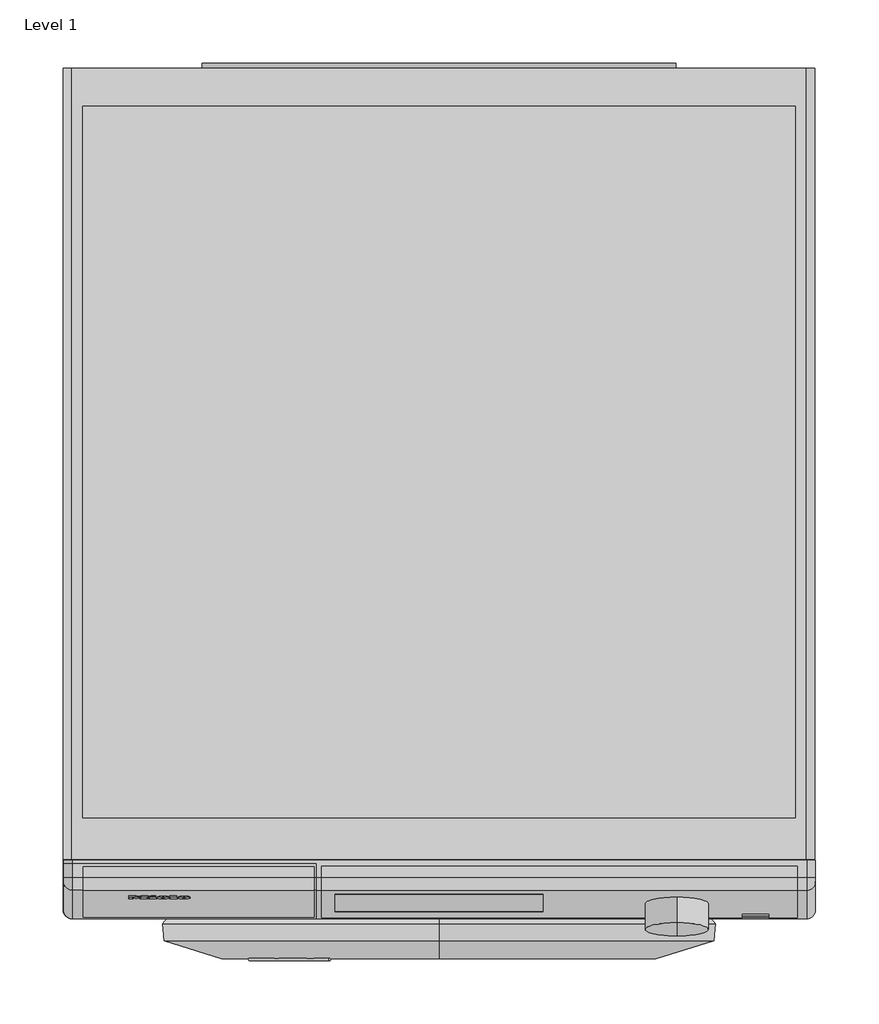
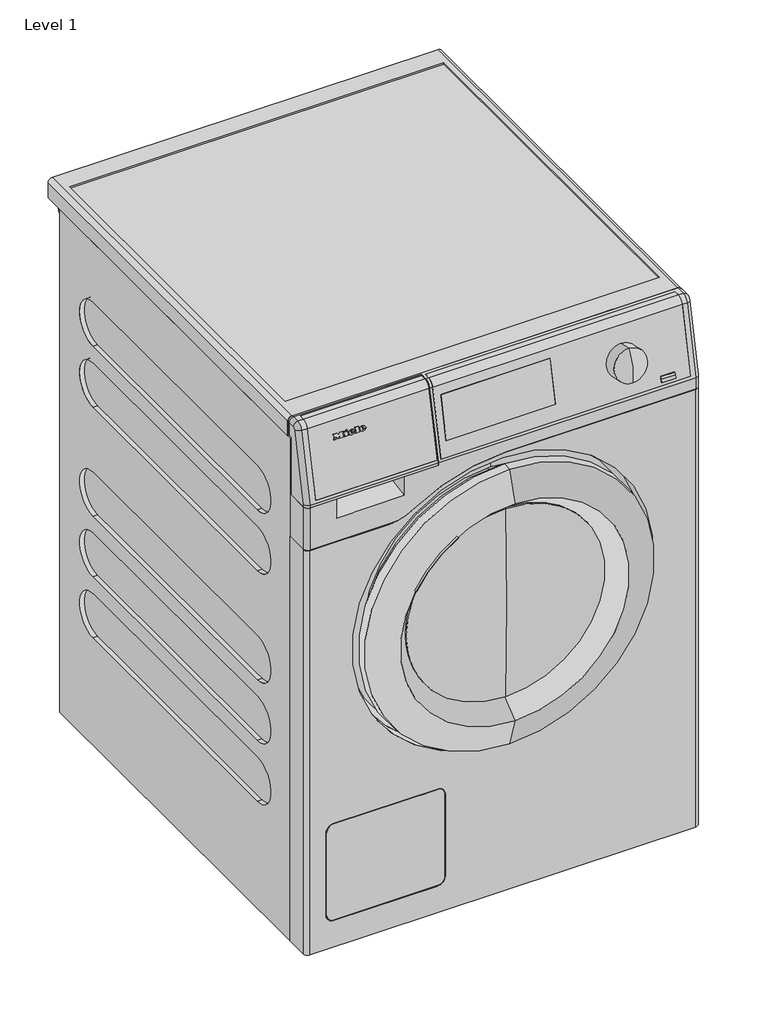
# One storey: 1 proxy.
"""IFC4 building model written with IfcOpenShell, lengths in millimetres."""

from ifc_helpers import new_model, si_unit, origin, place, context, project, spatial, transform, mapped, element, save
from components import specialty_equipment_d562a600, specialty_equipment_ffc2add7, specialty_equipment_23190b8d

model = new_model("IFC4")

# Units and contexts
model_context = context("Model", 3, world=origin())
ifc_project = project(units=[si_unit("LENGTHUNIT", "METRE", prefix="MILLI")], contexts=[model_context])

# Site, building, storey
site = spatial("IfcSite", under=ifc_project)
building = spatial("IfcBuilding", under=site)
storey = spatial("IfcBuildingStorey", under=building, Name="Level 1", Elevation=0.0)

# Proxy
placement = place(None, origin())
specialty_equipment_shape = specialty_equipment_d562a600(model_context)
specialty_equipment_2_shape = specialty_equipment_ffc2add7(model_context)
specialty_equipment_3_shape = specialty_equipment_23190b8d(model_context)
element("IfcBuildingElementProxy", 1, Name="11470760_ZER_PWM307DP_LWCC : 51307172_ZER_11470760_PWM307DP_LWCC", ObjectType="11470760_ZER_PWM307DP_LWCC : 51307172_ZER_11470760_PWM307DP_LWCC", at=placement, inside=storey, context=model_context, shape_type="MappedRepresentation", body=[
    mapped(specialty_equipment_shape, transform((0.0, 0.0, 0.0), x_axis=(1.0, 0.0, 0.0), y_axis=(0.0, 1.0, 0.0), z_axis=(0.0, 0.0, 1.0))),
    mapped(specialty_equipment_2_shape, transform((0.0, 0.0, 0.0), x_axis=(1.0, 0.0, 0.0), y_axis=(0.0, 1.0, 0.0), z_axis=(0.0, 0.0, 1.0))),
    mapped(specialty_equipment_3_shape, transform((0.0, 0.0, 0.0), x_axis=(1.0, 0.0, 0.0), y_axis=(0.0, 1.0, 0.0), z_axis=(0.0, 0.0, 1.0))),
])

save(model, "model.ifc")
